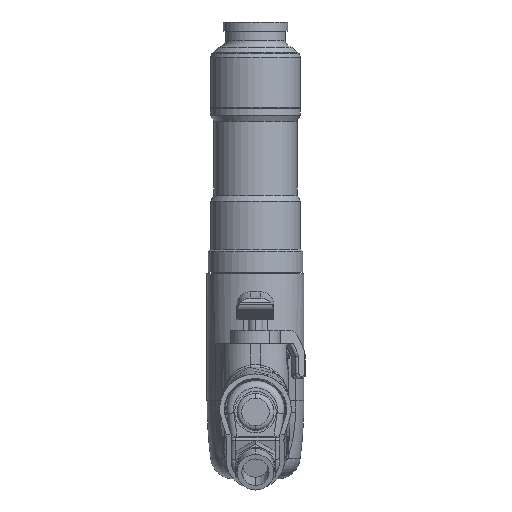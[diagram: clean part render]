
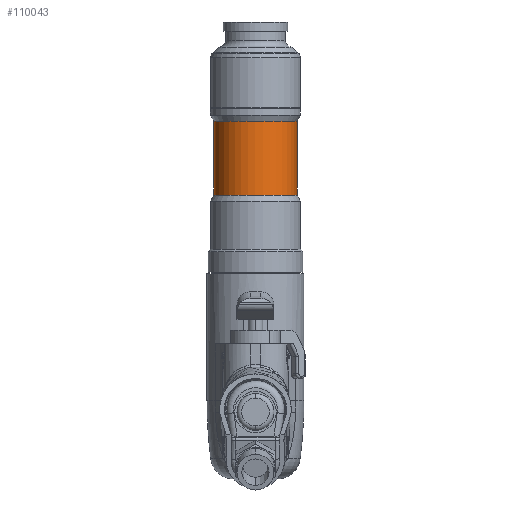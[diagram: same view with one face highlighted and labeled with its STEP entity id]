
A CAD part, front view. The second image highlights one B-rep face of the part: STEP entity #110043.
In plain terms, the highlighted cylindrical face has radius 18 mm (diameter 36 mm), a partial arc.
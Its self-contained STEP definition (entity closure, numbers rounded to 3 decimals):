
#84792 = CARTESIAN_POINT ( 'NONE',  ( -18., 0., -71. ) ) ;
#84793 = CARTESIAN_POINT ( 'NONE',  ( 18., 0., -71. ) ) ;
#84911 = DIRECTION ( 'NONE',  ( 0., 0., 1. ) ) ;
#84912 = VECTOR ( 'NONE', #84911, 1000. ) ;
#84913 = CARTESIAN_POINT ( 'NONE',  ( 18., 0., 5.023 ) ) ;
#84914 = LINE ( 'NONE', #84913, #84912 ) ;
#84915 = CARTESIAN_POINT ( 'NONE',  ( 18., 0., -39. ) ) ;
#84921 = CARTESIAN_POINT ( 'NONE',  ( -18., 0., -39. ) ) ;
#84922 = DIRECTION ( 'NONE',  ( 0., 0., 1. ) ) ;
#84923 = VECTOR ( 'NONE', #84922, 1000. ) ;
#84924 = CARTESIAN_POINT ( 'NONE',  ( -18., 0., 5.023 ) ) ;
#84929 = LINE ( 'NONE', #84924, #84923 ) ;
#85183 = DIRECTION ( 'NONE',  ( 1., 0., 0. ) ) ;
#85184 = DIRECTION ( 'NONE',  ( 0., 0., 1. ) ) ;
#85185 = CARTESIAN_POINT ( 'NONE',  ( 0., 0., -71. ) ) ;
#85186 = AXIS2_PLACEMENT_3D ( 'NONE', #85185, #85184, #85183 ) ;
#85187 = DIRECTION ( 'NONE',  ( 1., 0., 0. ) ) ;
#85188 = DIRECTION ( 'NONE',  ( 0., 0., 1. ) ) ;
#85189 = CARTESIAN_POINT ( 'NONE',  ( 0., 0., 5.023 ) ) ;
#85190 = AXIS2_PLACEMENT_3D ( 'NONE', #85189, #85188, #85187 ) ;
#85191 = CIRCLE ( 'NONE', #85186, 18. ) ;
#85193 = CYLINDRICAL_SURFACE ( 'NONE', #85190, 18. ) ;
#85194 = FACE_OUTER_BOUND ( 'NONE', #110044, .T. ) ;
#85195 = DIRECTION ( 'NONE',  ( 1., 0., 0. ) ) ;
#85196 = DIRECTION ( 'NONE',  ( 0., 0., 1. ) ) ;
#85197 = AXIS2_PLACEMENT_3D ( 'NONE', #85202, #85196, #85195 ) ;
#85198 = CIRCLE ( 'NONE', #85197, 18. ) ;
#85202 = CARTESIAN_POINT ( 'NONE',  ( 0., 0., -39. ) ) ;
#109830 = VERTEX_POINT ( 'NONE', #84793 ) ;
#109831 = VERTEX_POINT ( 'NONE', #84792 ) ;
#109895 = EDGE_CURVE ( 'NONE', #109831, #109896, #84929, .T. ) ;
#109896 = VERTEX_POINT ( 'NONE', #84921 ) ;
#109899 = VERTEX_POINT ( 'NONE', #84915 ) ;
#109901 = EDGE_CURVE ( 'NONE', #109830, #109899, #84914, .T. ) ;
#110040 = EDGE_CURVE ( 'NONE', #109896, #109899, #85198, .T. ) ;
#110043 = ADVANCED_FACE ( 'NONE', ( #85194 ), #85193, .T. ) ;
#110044 = EDGE_LOOP ( 'NONE', ( #110045, #110046, #110099, #110100 ) ) ;
#110045 = ORIENTED_EDGE ( 'NONE', *, *, #109895, .F. ) ;
#110046 = ORIENTED_EDGE ( 'NONE', *, *, #110047, .T. ) ;
#110047 = EDGE_CURVE ( 'NONE', #109831, #109830, #85191, .T. ) ;
#110099 = ORIENTED_EDGE ( 'NONE', *, *, #109901, .T. ) ;
#110100 = ORIENTED_EDGE ( 'NONE', *, *, #110040, .F. ) ;
